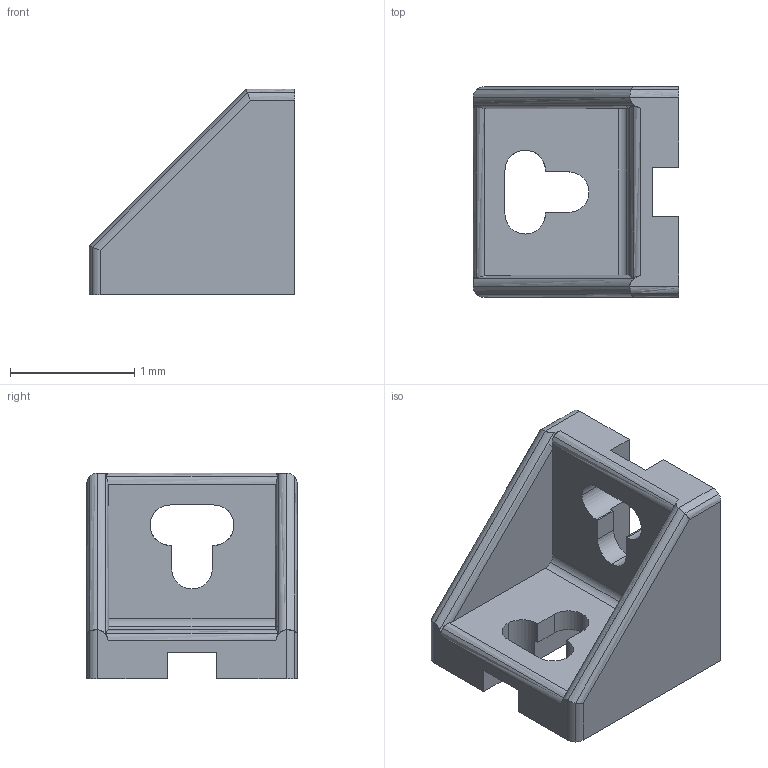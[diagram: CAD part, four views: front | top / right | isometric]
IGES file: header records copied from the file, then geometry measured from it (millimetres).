
Global section: file name: C:\Documents and Settings\Administrator\Desktop\Transfer Temp\boschgusset45.igs; native system: AutoDesk Inventor R2.0 ; preprocessor: AutoDesk Inventor Iges Exporter R2.0; author: No Author specified; organization: No Organization specified; date: 20020117.163038; units: millimetre
Bounding box: 1.65 x 1.69 x 1.65 mm (x, y, z)
Surface area: 16.7 mm2 (no closed solid volume)
Topology: 0 solids, 0 shells, 68 faces, 392 edges, 392 vertices
Faces by surface type: revolution 34, bspline 34
